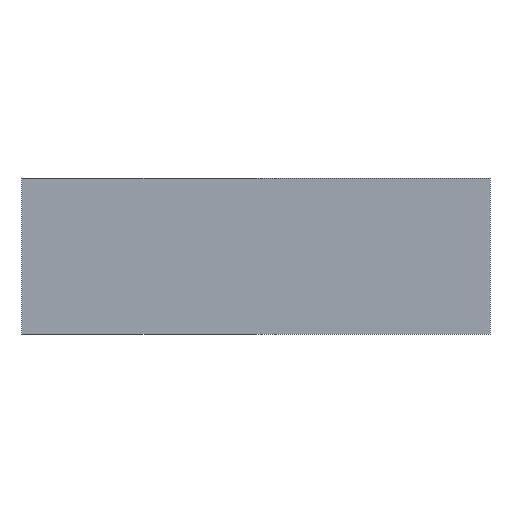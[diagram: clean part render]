
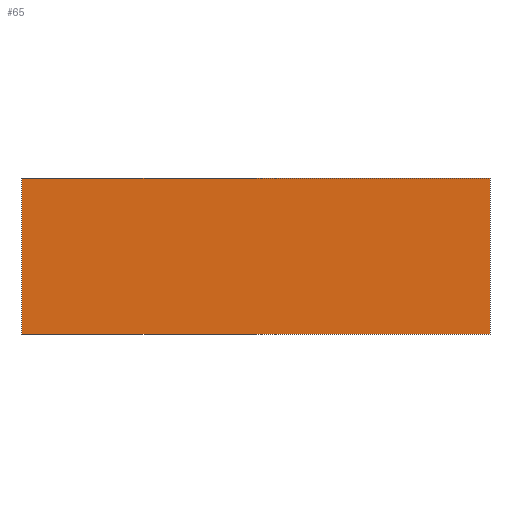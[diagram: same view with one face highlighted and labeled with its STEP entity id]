
A CAD part, front view. The second image highlights one B-rep face of the part: STEP entity #65.
In plain terms, the highlighted planar face has unit normal (0, -1, 0).
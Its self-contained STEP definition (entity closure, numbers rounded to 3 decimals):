
#5 = ORIENTED_EDGE ( 'NONE', *, *, #80, .F. ) ;
#6 = VECTOR ( 'NONE', #202, 1000. ) ;
#32 = CARTESIAN_POINT ( 'NONE',  ( -21.983, 0., -17.155 ) ) ;
#34 = LINE ( 'NONE', #182, #6 ) ;
#49 = ORIENTED_EDGE ( 'NONE', *, *, #167, .F. ) ;
#52 = CARTESIAN_POINT ( 'NONE',  ( 0., 0., 0. ) ) ;
#53 = CARTESIAN_POINT ( 'NONE',  ( -21.983, 0., -7.155 ) ) ;
#57 = VERTEX_POINT ( 'NONE', #206 ) ;
#65 = ADVANCED_FACE ( 'NONE', ( #146 ), #187, .F. ) ;
#75 = DIRECTION ( 'NONE',  ( 0., 0., 1. ) ) ;
#77 = EDGE_LOOP ( 'NONE', ( #169, #49, #106, #5 ) ) ;
#80 = EDGE_CURVE ( 'NONE', #158, #161, #186, .T. ) ;
#87 = CARTESIAN_POINT ( 'NONE',  ( -21.983, 0., -17.155 ) ) ;
#106 = ORIENTED_EDGE ( 'NONE', *, *, #204, .F. ) ;
#108 = CARTESIAN_POINT ( 'NONE',  ( -51.983, 0., -17.155 ) ) ;
#122 = DIRECTION ( 'NONE',  ( 0., 1., 0. ) ) ;
#124 = LINE ( 'NONE', #108, #191 ) ;
#125 = CARTESIAN_POINT ( 'NONE',  ( -51.983, 0., -7.155 ) ) ;
#127 = CARTESIAN_POINT ( 'NONE',  ( -51.983, 0., -7.155 ) ) ;
#146 = FACE_OUTER_BOUND ( 'NONE', #77, .T. ) ;
#157 = EDGE_CURVE ( 'NONE', #57, #158, #34, .T. ) ;
#158 = VERTEX_POINT ( 'NONE', #125 ) ;
#159 = LINE ( 'NONE', #87, #160 ) ;
#160 = VECTOR ( 'NONE', #215, 1000. ) ;
#161 = VERTEX_POINT ( 'NONE', #53 ) ;
#167 = EDGE_CURVE ( 'NONE', #224, #57, #124, .T. ) ;
#169 = ORIENTED_EDGE ( 'NONE', *, *, #157, .F. ) ;
#182 = CARTESIAN_POINT ( 'NONE',  ( -51.983, 0., -17.155 ) ) ;
#186 = LINE ( 'NONE', #127, #210 ) ;
#187 = PLANE ( 'NONE',  #235 ) ;
#191 = VECTOR ( 'NONE', #216, 1000. ) ;
#202 = DIRECTION ( 'NONE',  ( 0., 0., 1. ) ) ;
#204 = EDGE_CURVE ( 'NONE', #161, #224, #159, .T. ) ;
#205 = DIRECTION ( 'NONE',  ( 1., 0., 0. ) ) ;
#206 = CARTESIAN_POINT ( 'NONE',  ( -51.983, 0., -17.155 ) ) ;
#210 = VECTOR ( 'NONE', #205, 1000. ) ;
#215 = DIRECTION ( 'NONE',  ( 0., 0., -1. ) ) ;
#216 = DIRECTION ( 'NONE',  ( -1., 0., 0. ) ) ;
#224 = VERTEX_POINT ( 'NONE', #32 ) ;
#235 = AXIS2_PLACEMENT_3D ( 'NONE', #52, #122, #75 ) ;
